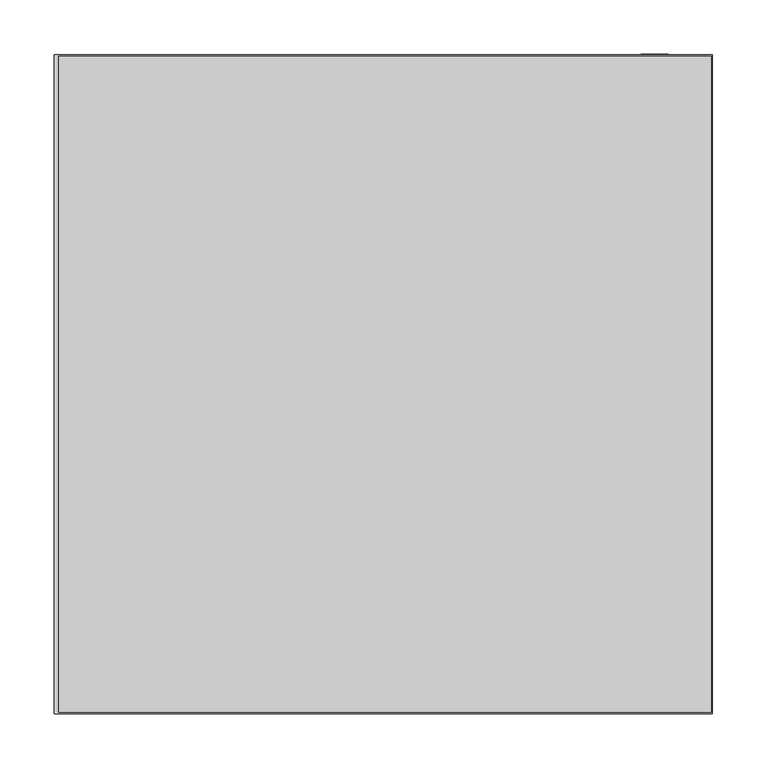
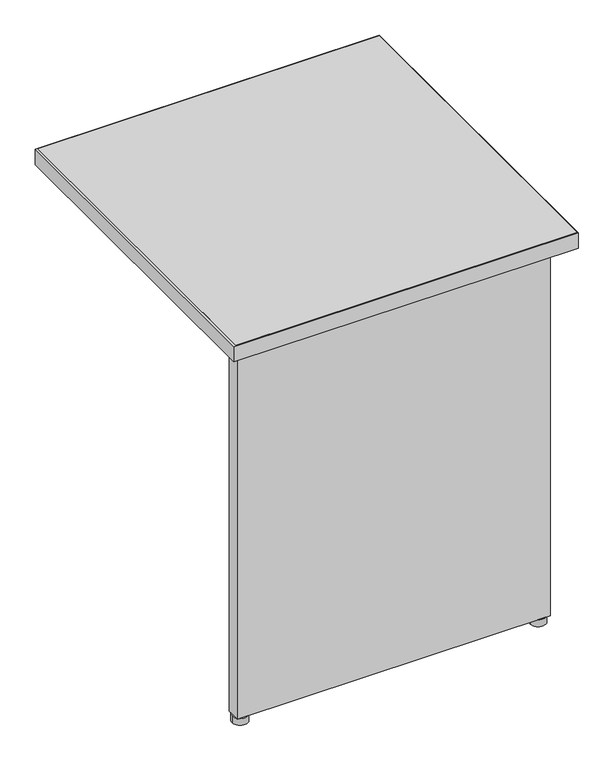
"""IFC4 building model written with IfcOpenShell, lengths in millimetres: furniture geometry, Steelcase - Kick Freestanding - Desk - Return - Partial Height Modesty Panel : 24D x 24W - Right."""

from ifc_helpers import new_model, si_unit, point, frame, frame_2d, origin, origin_with_axes, place, context, project, spatial, polyline, circle_curve, trimmed, segment, composite_curve, outline, extrude, source, transform, mapped, element, save


def furniture_b0f8994d(model_context):
    return source(origin(), model_context, "Body", "SweptSolid", [
        extrude(outline(composite_curve([segment(trimmed(circle_curve(frame_2d((2107.4714425, -1131.0145152)), 13.97), [point((2121.4414425, -1131.0145152))], [point((2093.5014425, -1131.0145152))], False, "CARTESIAN"), True, "CONTINUOUS"), segment(trimmed(circle_curve(frame_2d((2107.4714425, -1131.0145152)), 13.97), [point((2093.5014425, -1131.0145152))], [point((2121.4414425, -1131.0145152))], False, "CARTESIAN"), True, "CONTINUOUS")], self_intersect=False)), origin_with_axes(), (0.0, 0.0, 1.0), 12.7),
        extrude(outline(composite_curve([segment(trimmed(circle_curve(frame_2d((1579.6594425, -1131.0145152)), 13.97), [point((1593.6294425, -1131.0145152))], [point((1565.6894425, -1131.0145152))], False, "CARTESIAN"), True, "CONTINUOUS"), segment(trimmed(circle_curve(frame_2d((1579.6594425, -1131.0145152)), 13.97), [point((1565.6894425, -1131.0145152))], [point((1593.6294425, -1131.0145152))], False, "CARTESIAN"), True, "CONTINUOUS")], self_intersect=False)), origin_with_axes(), (0.0, 0.0, 1.0), 12.7),
        extrude(outline(polyline([(2122.7114425, -1118.4669152), (2122.7114425, -1142.9525098), (1568.2294473, -1142.9525098), (1568.2294473, -1118.4669041), (1691.2670317, -1118.4669041), (1691.2670317, -1140.8951136), (1790.9874347, -1140.8951136), (1790.9874347, -1118.4669041), (1899.7248382, -1118.4669041), (1899.7248382, -1140.8951136), (1999.4452412, -1140.8951136), (1999.4452412, -1118.4669152), (2122.7114425, -1118.4669152)])), frame((0.0, 0.0, 12.7), z_axis=(0.0, 0.0, 1.0), x_axis=(1.0, 0.0, 0.0)), (0.0, 0.0, 1.0), 682.244),
        extrude(outline(polyline([(2097.3114424, -546.0525152), (2122.7114425, -546.0525152), (2122.7114425, -1118.4669152), (2097.3114424, -1118.4669152), (2097.3114424, -546.0525152)])), frame((0.0, 0.0, 390.144), z_axis=(0.0, 0.0, 1.0), x_axis=(1.0, 0.0, 0.0)), (0.0, 0.0, 1.0), 304.8),
        extrude(outline(polyline([(1558.5012257, -548.0845152), (2162.8688425, -548.0845152), (2162.8688425, -1155.1445152), (1558.5012257, -1155.1445152), (1558.5012257, -548.0845152)])), frame((0.0, 0.0, 694.944), z_axis=(0.0, 0.0, 1.0), x_axis=(1.0, 0.0, 0.0)), (0.0, 0.0, 1.0), 28.956),
        extrude(outline(polyline([(1554.2594425, -546.8145152), (2163.8594425, -546.8145152), (2163.8594425, -1156.4145152), (1554.2594425, -1156.4145152), (1554.2594425, -546.8145152)]), holes=[polyline([(1558.5012257, -548.0845152), (1558.5012257, -1155.1445152), (2162.8688425, -1155.1445152), (2162.8688425, -548.0845152), (1558.5012257, -548.0845152)])]), frame((0.0, 0.0, 694.944), z_axis=(0.0, 0.0, 1.0), x_axis=(1.0, 0.0, 0.0)), (0.0, 0.0, 1.0), 28.956),
    ])


if __name__ == "__main__":
    model = new_model("IFC4")
    model_context = context("Model", 3, world=origin())
    ifc_project = project(units=[si_unit("LENGTHUNIT", "METRE", prefix="MILLI")], contexts=[model_context])
    site = spatial("IfcSite", under=ifc_project)
    building = spatial("IfcBuilding", under=site)
    placement = place(None, origin())
    furniture_shape = furniture_b0f8994d(model_context)
    element("IfcFurniture", 1, ObjectType="Steelcase - Kick Freestanding - Desk - Return - Partial Height Modesty Panel : 24D x 24W - Right", at=placement, inside=building, context=model_context, shape_type="MappedRepresentation", body=[
        mapped(furniture_shape, transform((0.0, 0.0, 0.0), x_axis=(1.0, 0.0, 0.0), y_axis=(0.0, 1.0, 0.0), z_axis=(0.0, 0.0, 1.0))),
    ])
    save(model, "model.ifc")
